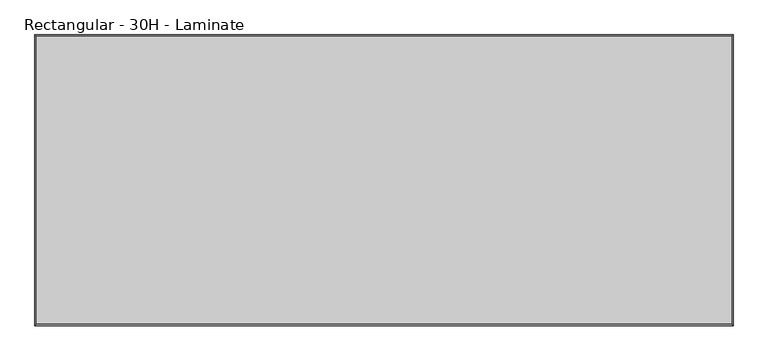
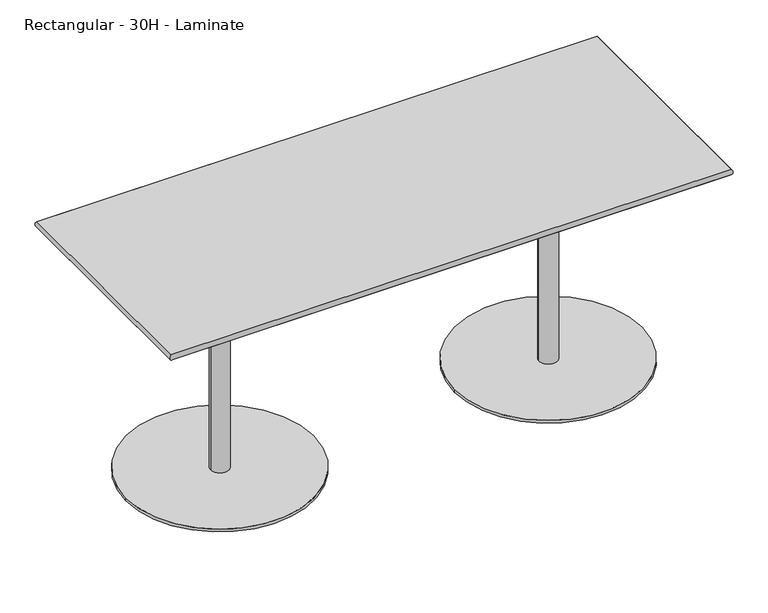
"""IFC4 building model written with IfcOpenShell, lengths in millimetres: furniture geometry, Steelcase Coalesse - Enea - Table - Double Base : Rectangular - 30H - Laminate."""

import ifcopenshell
import ifcopenshell.guid

model = None  # the IFC model being written
_history = None  # IfcOwnerHistory: only IFC2X3 demands one
_inside = {}  # id of a spatial element -> (the spatial element, [elements in it])
_under = {}  # id of a project, library or spatial element -> (it, [spatial elements below it])
_declared = {}  # id of a project -> (the project, [libraries it declares])
_typed = {}  # id of a type object -> (the type object, [elements of that type])
_made_of = {}  # id of a material, layer set ... -> (it, [elements and type objects made of it])


def new_model(schema):
    """Start an empty IFC model of exactly this schema.

    Asked for "IFC4X3", IfcOpenShell would pick the latest addendum, in which some entities
    have other attributes; the version numbers below select the first issue.
    IFC2X3 requires an IfcOwnerHistory on every rooted entity: one is made here for all.
    """
    global model, _history
    if schema == "IFC4X3":
        model = ifcopenshell.file(schema_version=(4, 3, 0, 0))
    else:
        model = ifcopenshell.file(schema=schema)
    _inside.clear()
    _under.clear()
    _declared.clear()
    _typed.clear()
    _made_of.clear()
    _history = None
    if model.schema == "IFC2X3":
        org = make("IfcOrganization", Name="unknown")
        user = make(
            "IfcPersonAndOrganization",
            ThePerson=make("IfcPerson", FamilyName="unknown"),
            TheOrganization=org,
        )
        app = make(
            "IfcApplication",
            ApplicationDeveloper=org,
            Version="unknown",
            ApplicationFullName="unknown",
            ApplicationIdentifier="unknown",
        )
        _history = make(
            "IfcOwnerHistory",
            OwningUser=user,
            OwningApplication=app,
            ChangeAction="ADDED",
            CreationDate=0,
        )
    return model


def make(cls, **values):
    """One entity of the class cls with the attributes given. An attribute that is None is left unset."""
    return model.create_entity(
        cls, **{name: value for name, value in values.items() if value is not None}
    )


def rooted(cls, **values):
    """An entity with a GlobalId (a new one), such as an element, a storey or a relation."""
    return make(cls, GlobalId=ifcopenshell.guid.new(), OwnerHistory=_history, **values)


def si_unit(unit_type, name, prefix=None):
    """IfcSIUnit, for example si_unit("LENGTHUNIT", "METRE", prefix="MILLI")."""
    return make("IfcSIUnit", UnitType=unit_type, Prefix=prefix, Name=name)


def assignment(units):
    """IfcUnitAssignment: the units of a project."""
    return None if units is None else make("IfcUnitAssignment", Units=units)


def point(xyz):
    """IfcCartesianPoint."""
    return None if xyz is None else make("IfcCartesianPoint", Coordinates=xyz)


def direction(xyz):
    """IfcDirection."""
    return None if xyz is None else make("IfcDirection", DirectionRatios=xyz)


def frame(location, z_axis=None, x_axis=None):
    """IfcAxis2Placement3D, a coordinate frame: its origin and axes. An axis left out is left unset."""
    return make(
        "IfcAxis2Placement3D",
        Location=point(location),
        Axis=direction(z_axis),
        RefDirection=direction(x_axis),
    )


def frame_2d(location, x_axis=None):
    """IfcAxis2Placement2D, a coordinate frame in the plane: its origin and x axis."""
    return make(
        "IfcAxis2Placement2D", Location=point(location), RefDirection=direction(x_axis)
    )


def origin():
    """The frame at (0, 0, 0) with its axes left unset."""
    return frame((0.0, 0.0, 0.0))


def origin_with_axes():
    """The frame at (0, 0, 0) with the z axis (0, 0, 1) and the x axis (1, 0, 0) written out."""
    return frame((0.0, 0.0, 0.0), z_axis=(0.0, 0.0, 1.0), x_axis=(1.0, 0.0, 0.0))


def place(relative_to, where):
    """IfcLocalPlacement: puts the frame where relative to a parent placement (None: the world)."""
    return make(
        "IfcLocalPlacement", PlacementRelTo=relative_to, RelativePlacement=where
    )


def context(
    kind, dimensions, precision=None, world=None, true_north=None, identifier=None
):
    """IfcGeometricRepresentationContext, for example the 3D "Model" context."""
    return make(
        "IfcGeometricRepresentationContext",
        ContextIdentifier=identifier,
        ContextType=kind,
        CoordinateSpaceDimension=dimensions,
        Precision=precision,
        WorldCoordinateSystem=world,
        TrueNorth=true_north,
    )


def project(units=None, contexts=None):
    """IfcProject with its units and contexts."""
    return rooted(
        "IfcProject",
        Name="project",
        RepresentationContexts=contexts,
        UnitsInContext=assignment(units),
    )


def spatial(cls, under=None, at=None, **own):
    """A site, building, storey or space (cls), placed at a placement, below another one or the project."""
    s = rooted(cls, ObjectPlacement=at, **own)
    if under is not None:
        _under.setdefault(under.id(), (under, []))[1].append(s)
    return s


def polyline(points):
    """IfcPolyline through the points."""
    return make("IfcPolyline", Points=[point(p) for p in points])


def circle_curve(where, radius):
    """IfcCircle in the frame where."""
    return make("IfcCircle", Position=where, Radius=radius)


def ellipse_curve(where, semi_axis1, semi_axis2):
    """IfcEllipse in the frame where."""
    return make(
        "IfcEllipse", Position=where, SemiAxis1=semi_axis1, SemiAxis2=semi_axis2
    )


def trimmed(basis, trim1, trim2, sense, master):
    """IfcTrimmedCurve: the piece of a basis curve between two trims."""
    return make(
        "IfcTrimmedCurve",
        BasisCurve=basis,
        Trim1=trim1,
        Trim2=trim2,
        SenseAgreement=sense,
        MasterRepresentation=master,
    )


def segment(curve, same_sense, transition):
    """IfcCompositeCurveSegment."""
    return make(
        "IfcCompositeCurveSegment",
        Transition=transition,
        SameSense=same_sense,
        ParentCurve=curve,
    )


def composite_curve(segments, self_intersect=None):
    """IfcCompositeCurve: segments joined end to end."""
    return make("IfcCompositeCurve", Segments=segments, SelfIntersect=self_intersect)


def outline(outer, holes=None, kind="AREA"):
    """IfcArbitraryClosedProfileDef: a profile drawn as a closed curve; with holes, ...WithVoids."""
    if holes is None:
        return make("IfcArbitraryClosedProfileDef", ProfileType=kind, OuterCurve=outer)
    return make(
        "IfcArbitraryProfileDefWithVoids",
        ProfileType=kind,
        OuterCurve=outer,
        InnerCurves=holes,
    )


def extrude(swept, where, along, depth):
    """IfcExtrudedAreaSolid: the profile swept, set in the frame where, extruded along a direction by depth."""
    return make(
        "IfcExtrudedAreaSolid",
        SweptArea=swept,
        Position=where,
        ExtrudedDirection=direction(along),
        Depth=depth,
    )


def shape(context_of_items, identifier, shape_type, items):
    """IfcShapeRepresentation: the items that make up one representation, for example the "Body"."""
    return make(
        "IfcShapeRepresentation",
        ContextOfItems=context_of_items,
        RepresentationIdentifier=identifier,
        RepresentationType=shape_type,
        Items=items,
    )


def source(mapping_origin, context_of_items, identifier, shape_type, items):
    """IfcRepresentationMap: a shape defined once, which mapped items show again and again."""
    return make(
        "IfcRepresentationMap",
        MappingOrigin=mapping_origin,
        MappedRepresentation=shape(context_of_items, identifier, shape_type, items),
    )


def transform(
    local_origin,
    x_axis=None,
    y_axis=None,
    z_axis=None,
    scale=None,
    scale2=None,
    scale3=None,
    uniform=True,
):
    """IfcCartesianTransformationOperator3D, or its non-uniform kind. x_axis, y_axis, z_axis: its Axis1, 2, 3."""
    if uniform:
        return make(
            "IfcCartesianTransformationOperator3D",
            Axis1=direction(x_axis),
            Axis2=direction(y_axis),
            LocalOrigin=point(local_origin),
            Scale=scale,
            Axis3=direction(z_axis),
        )
    return make(
        "IfcCartesianTransformationOperator3DnonUniform",
        Axis1=direction(x_axis),
        Axis2=direction(y_axis),
        LocalOrigin=point(local_origin),
        Scale=scale,
        Axis3=direction(z_axis),
        Scale2=scale2,
        Scale3=scale3,
    )


def mapped(mapping_source, mapping_target):
    """IfcMappedItem: shows the shape of a source again, moved by a transform."""
    return make(
        "IfcMappedItem", MappingSource=mapping_source, MappingTarget=mapping_target
    )


def made_of(thing, what):
    """Note that an element or type object is made of a material, layer set ...; save() writes the relation."""
    if what is not None:
        _made_of.setdefault(what.id(), (what, []))[1].append(thing)
    return thing


def element(
    cls,
    number,
    at=None,
    inside=None,
    cuts=None,
    type_object=None,
    material=None,
    context=None,
    identifier="Body",
    shape_type=None,
    held_by="IfcProductDefinitionShape",
    body=None,
    shapes=None,
    **own,
):
    """One element of the class cls, such as IfcWall. Its Tag is "e" and its number.

    at: its placement. inside: the storey or other place that contains it. cuts: it is an
    opening in that element (IfcRelVoidsElement). A single representation is given by context,
    identifier, shape_type and body (its items); several are given by shapes. held_by: the class
    of the entity that holds the representations. save() writes the other relations.
    """
    e = rooted(cls, Tag="e%d" % number, ObjectPlacement=at, **own)
    if body is not None:
        shapes = [shape(context, identifier, shape_type, body)]
    if shapes is not None:
        e.Representation = make(held_by, Representations=shapes)
    if inside is not None:
        _inside.setdefault(inside.id(), (inside, []))[1].append(e)
    if cuts is not None:
        rooted(
            "IfcRelVoidsElement", RelatingBuildingElement=cuts, RelatedOpeningElement=e
        )
    if type_object is not None:
        _typed.setdefault(type_object.id(), (type_object, []))[1].append(e)
    return made_of(e, material)


def aggregate(whole, parts):
    """IfcRelAggregates: a whole, such as a stair, and the parts it consists of."""
    return rooted("IfcRelAggregates", RelatingObject=whole, RelatedObjects=parts)


def save(model, path):
    """Write the relations noted so far, then the file.

    IfcRelAggregates (storeys below a building ...), IfcRelContainedInSpatialStructure (elements
    in a storey), IfcRelDefinesByType, IfcRelAssociatesMaterial and IfcRelDeclares: one each for
    every whole, place, type object, material and project.
    """
    for whole, parts in _under.values():
        aggregate(whole, parts)
    for where, things in _inside.values():
        rooted(
            "IfcRelContainedInSpatialStructure",
            RelatedElements=things,
            RelatingStructure=where,
        )
    for kind, things in _typed.values():
        rooted("IfcRelDefinesByType", RelatedObjects=things, RelatingType=kind)
    for what, things in _made_of.values():
        rooted("IfcRelAssociatesMaterial", RelatedObjects=things, RelatingMaterial=what)
    for by, libraries in _declared.values():
        rooted("IfcRelDeclares", RelatingContext=by, RelatedDefinitions=libraries)
    model.write(path)


def plane_surface(at):
    """IfcPlane: the flat surface through the origin of the frame at, square to its z axis."""
    return make("IfcPlane", Position=at)


def cylinder_surface(at, radius):
    """IfcCylindricalSurface: all points at the distance radius from the z axis of the frame at."""
    return make("IfcCylindricalSurface", Position=at, Radius=radius)


def advanced_brep(points, edges, surfaces, faces):
    """IfcAdvancedBrep: a solid bounded by faces that lie on surfaces and meet in shared edges.

    An edge is (start, end): straight between two places in points (the first is 0);
    or (start, end, curve); or (start, end, curve, False) where it runs against its curve.
    A face is (place in surfaces, loops), or (place, loops, False) where it looks against
    its surface's normal. A loop lists edges by number (the first is 1), with a minus sign
    where the edge is run from its end to its start. The first loop is the outer one.
    """
    corners = [point(p) for p in points]
    vertices = [make("IfcVertexPoint", VertexGeometry=c) for c in corners]
    made = []
    for start, end, *more in edges:
        made.append(
            make(
                "IfcEdgeCurve",
                EdgeStart=vertices[start],
                EdgeEnd=vertices[end],
                EdgeGeometry=more[0] if more else make("IfcPolyline", Points=[corners[start], corners[end]]),
                SameSense=more[1] if len(more) > 1 else True,
            )
        )
    hull = []
    for where, loops, *sense in faces:
        bounds = []
        for j, loop in enumerate(loops):
            ring = [make("IfcOrientedEdge", EdgeElement=made[abs(k) - 1], Orientation=k > 0) for k in loop]
            bounds.append(
                make(
                    "IfcFaceOuterBound" if j == 0 else "IfcFaceBound",
                    Bound=make("IfcEdgeLoop", EdgeList=ring),
                    Orientation=True,
                )
            )
        hull.append(make("IfcAdvancedFace", Bounds=bounds, FaceSurface=surfaces[where], SameSense=sense[0] if sense else True))
    return make("IfcAdvancedBrep", Outer=make("IfcClosedShell", CfsFaces=hull))


def rectangular_30h_laminate_148f9627(model_context):
    return source(origin(), model_context, "Body", "SolidModel", [
        advanced_brep(
        [(-1205.8132353, -914.4181244, 762.0), (-1205.8132353, -914.4181244, 742.95), (614.3872896, -914.4181244, 742.95), (614.3872896, -914.4181244, 762.0), (614.3872896, -161.0175995, 742.95), (614.3872896, -161.0175995, 762.0), (-1205.8132353, -161.0175995, 742.95), (-1205.8132353, -161.0175995, 762.0)],
        [
            (0, 1, ellipse_curve(frame((-1196.3937054, -904.9985945, 752.475), z_axis=(0.7071067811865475, -0.7071067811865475, 0.0), x_axis=(-0.7071067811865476, -0.7071067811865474, 0.0)), 18.9448235, 13.3960131)),
            (1, 2),
            (2, 3, ellipse_curve(frame((604.9677598, -904.9985945, 752.475), z_axis=(-0.7071067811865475, -0.7071067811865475, 0.0), x_axis=(-0.7071067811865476, 0.7071067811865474, 0.0)), 18.9448235, 13.3960131)),
            (3, 0),
            (1, 0),
            (3, 2),
            (2, 4),
            (4, 5, ellipse_curve(frame((604.9677598, -170.4371294, 752.475), z_axis=(0.7071067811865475, -0.7071067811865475, 0.0), x_axis=(-0.7071067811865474, -0.7071067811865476, 0.0)), 18.9448235, 13.3960131)),
            (5, 3),
            (5, 4),
            (4, 6),
            (6, 7, ellipse_curve(frame((-1196.3937054, -170.4371294, 752.475), z_axis=(0.7071067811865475, 0.7071067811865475, 0.0), x_axis=(0.7071067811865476, -0.7071067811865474, 0.0)), 18.9448235, 13.3960131)),
            (7, 5),
            (7, 6),
            (6, 1),
            (0, 7),
        ],
        [
            cylinder_surface(frame((-1205.8132353, -904.9985945, 752.475), z_axis=(-1.0, 0.0, 0.0), x_axis=(0.0, 1.0, 0.0)), 13.3960131),
            plane_surface(frame((-1205.8132353, -914.4181244, 762.0), z_axis=(0.0, 1.0, 0.0), x_axis=(1.0, 0.0, 0.0))),
            cylinder_surface(frame((604.9677598, -914.4181244, 752.475), z_axis=(0.0, -1.0, 0.0), x_axis=(-1.0, 0.0, 0.0)), 13.3960131),
            plane_surface(frame((614.3872896, -914.4181244, 762.0), z_axis=(-1.0, 0.0, 0.0), x_axis=(0.0, 1.0, 0.0))),
            cylinder_surface(frame((614.3872896, -170.4371294, 752.475), z_axis=(1.0, 0.0, 0.0), x_axis=(0.0, -1.0, 0.0)), 13.3960131),
            plane_surface(frame((614.3872896, -161.0175995, 762.0), z_axis=(0.0, -1.0, 0.0), x_axis=(-1.0, 0.0, 0.0))),
            cylinder_surface(frame((-1196.3937054, -161.0175995, 752.475), z_axis=(0.0, 1.0, 0.0), x_axis=(1.0, 0.0, 0.0)), 13.3960131),
            plane_surface(frame((-1205.8132353, -161.0175995, 762.0), z_axis=(1.0, 0.0, 0.0), x_axis=(0.0, -1.0, 0.0))),
        ],
        [
            (0, [[1, 2, 3, 4]]),
            (1, [[5, -4, 6, -2]]),
            (2, [[-3, 7, 8, 9]]),
            (3, [[-6, -9, 10, -7]]),
            (4, [[-8, 11, 12, 13]]),
            (5, [[-10, -13, 14, -11]]),
            (6, [[-12, 15, -1, 16]]),
            (7, [[-14, -16, -5, -15]]),
        ],
    ),
        extrude(outline(polyline([(614.3872896, -161.0175995), (614.3872896, -914.4181244), (-1205.8132353, -914.4181244), (-1205.8132353, -161.0175995), (614.3872896, -161.0175995)])), frame((0.0, 0.0, 742.95), z_axis=(0.0, 0.0, 1.0), x_axis=(1.0, 0.0, 0.0)), (0.0, 0.0, 1.0), 19.05),
        extrude(outline(composite_curve([segment(trimmed(circle_curve(frame_2d((-829.113029, -284.0746893)), 25.4), [point((-803.713029, -284.0746893))], [point((-854.513029, -284.0746893))], False, "CARTESIAN"), True, "CONTINUOUS"), segment(trimmed(circle_curve(frame_2d((-829.113029, -284.0746893)), 25.4), [point((-854.513029, -284.0746893))], [point((-803.713029, -284.0746893))], False, "CARTESIAN"), True, "CONTINUOUS")], self_intersect=False)), origin_with_axes(), (0.0, 0.0, 1.0), 6.35),
        extrude(outline(composite_curve([segment(trimmed(circle_curve(frame_2d((-1082.7563397, -537.3772238)), 25.4), [point((-1057.3563397, -537.3772238))], [point((-1108.1563397, -537.3772238))], False, "CARTESIAN"), True, "CONTINUOUS"), segment(trimmed(circle_curve(frame_2d((-1082.7563397, -537.3772238)), 25.4), [point((-1108.1563397, -537.3772238))], [point((-1057.3563397, -537.3772238))], False, "CARTESIAN"), True, "CONTINUOUS")], self_intersect=False)), origin_with_axes(), (0.0, 0.0, 1.0), 6.35),
        extrude(outline(composite_curve([segment(trimmed(circle_curve(frame_2d((-575.4697182, -537.3772238)), 25.4), [point((-550.0697182, -537.3772238))], [point((-600.8697182, -537.3772238))], False, "CARTESIAN"), True, "CONTINUOUS"), segment(trimmed(circle_curve(frame_2d((-575.4697182, -537.3772238)), 25.4), [point((-600.8697182, -537.3772238))], [point((-550.0697182, -537.3772238))], False, "CARTESIAN"), True, "CONTINUOUS")], self_intersect=False)), origin_with_axes(), (0.0, 0.0, 1.0), 6.35),
        extrude(outline(composite_curve([segment(trimmed(circle_curve(frame_2d((-829.113029, -790.6797584)), 25.4), [point((-803.713029, -790.6797584))], [point((-854.513029, -790.6797584))], False, "CARTESIAN"), True, "CONTINUOUS"), segment(trimmed(circle_curve(frame_2d((-829.113029, -790.6797584)), 25.4), [point((-854.513029, -790.6797584))], [point((-803.713029, -790.6797584))], False, "CARTESIAN"), True, "CONTINUOUS")], self_intersect=False)), origin_with_axes(), (0.0, 0.0, 1.0), 6.35),
        extrude(outline(composite_curve([segment(trimmed(circle_curve(frame_2d((-829.113029, -537.718)), 304.8), [point((-1133.913029, -537.718))], [point((-524.313029, -537.718))], False, "CARTESIAN"), True, "CONTINUOUS"), segment(trimmed(circle_curve(frame_2d((-829.113029, -537.718)), 304.8), [point((-524.313029, -537.718))], [point((-1133.913029, -537.718))], False, "CARTESIAN"), True, "CONTINUOUS")], self_intersect=False)), frame((0.0, 0.0, 6.35), z_axis=(0.0, 0.0, 1.0), x_axis=(1.0, 0.0, 0.0)), (0.0, 0.0, 1.0), 9.525),
        extrude(outline(composite_curve([segment(trimmed(circle_curve(frame_2d((-829.1133197, -537.7179273)), 30.0214725), [point((-859.1347922, -537.7179273))], [point((-799.0918471, -537.7179273))], False, "CARTESIAN"), True, "CONTINUOUS"), segment(trimmed(circle_curve(frame_2d((-829.1133197, -537.7179273)), 30.0214725), [point((-799.0918471, -537.7179273))], [point((-859.1347922, -537.7179273))], False, "CARTESIAN"), True, "CONTINUOUS")], self_intersect=False)), frame((0.0, 0.0, 15.875), z_axis=(0.0, 0.0, 1.0), x_axis=(1.0, 0.0, 0.0)), (0.0, 0.0, 1.0), 727.075),
        extrude(outline(composite_curve([segment(trimmed(circle_curve(frame_2d((237.686971, -284.0746893)), 25.4), [point((212.286971, -284.0746893))], [point((263.086971, -284.0746893))], False, "CARTESIAN"), True, "CONTINUOUS"), segment(trimmed(circle_curve(frame_2d((237.686971, -284.0746893)), 25.4), [point((263.086971, -284.0746893))], [point((212.286971, -284.0746893))], False, "CARTESIAN"), True, "CONTINUOUS")], self_intersect=False)), origin_with_axes(), (0.0, 0.0, 1.0), 6.35),
        extrude(outline(composite_curve([segment(trimmed(circle_curve(frame_2d((491.3302818, -537.3772238)), 25.4), [point((465.9302818, -537.3772238))], [point((516.7302818, -537.3772238))], False, "CARTESIAN"), True, "CONTINUOUS"), segment(trimmed(circle_curve(frame_2d((491.3302818, -537.3772238)), 25.4), [point((516.7302818, -537.3772238))], [point((465.9302818, -537.3772238))], False, "CARTESIAN"), True, "CONTINUOUS")], self_intersect=False)), origin_with_axes(), (0.0, 0.0, 1.0), 6.35),
        extrude(outline(composite_curve([segment(trimmed(circle_curve(frame_2d((-15.9563397, -537.3772238)), 25.4), [point((-41.3563397, -537.3772238))], [point((9.4436603, -537.3772238))], False, "CARTESIAN"), True, "CONTINUOUS"), segment(trimmed(circle_curve(frame_2d((-15.9563397, -537.3772238)), 25.4), [point((9.4436603, -537.3772238))], [point((-41.3563397, -537.3772238))], False, "CARTESIAN"), True, "CONTINUOUS")], self_intersect=False)), origin_with_axes(), (0.0, 0.0, 1.0), 6.35),
        extrude(outline(composite_curve([segment(trimmed(circle_curve(frame_2d((237.686971, -790.6797584)), 25.4), [point((212.286971, -790.6797584))], [point((263.086971, -790.6797584))], False, "CARTESIAN"), True, "CONTINUOUS"), segment(trimmed(circle_curve(frame_2d((237.686971, -790.6797584)), 25.4), [point((263.086971, -790.6797584))], [point((212.286971, -790.6797584))], False, "CARTESIAN"), True, "CONTINUOUS")], self_intersect=False)), origin_with_axes(), (0.0, 0.0, 1.0), 6.35),
        extrude(outline(composite_curve([segment(trimmed(circle_curve(frame_2d((237.686971, -537.718)), 304.8), [point((542.486971, -537.718))], [point((-67.113029, -537.718))], False, "CARTESIAN"), True, "CONTINUOUS"), segment(trimmed(circle_curve(frame_2d((237.686971, -537.718)), 304.8), [point((-67.113029, -537.718))], [point((542.486971, -537.718))], False, "CARTESIAN"), True, "CONTINUOUS")], self_intersect=False)), frame((0.0, 0.0, 6.35), z_axis=(0.0, 0.0, 1.0), x_axis=(1.0, 0.0, 0.0)), (0.0, 0.0, 1.0), 9.525),
        extrude(outline(composite_curve([segment(trimmed(circle_curve(frame_2d((237.6872617, -537.7179273)), 30.0214725), [point((267.7087342, -537.7179273))], [point((207.6657892, -537.7179273))], False, "CARTESIAN"), True, "CONTINUOUS"), segment(trimmed(circle_curve(frame_2d((237.6872617, -537.7179273)), 30.0214725), [point((207.6657892, -537.7179273))], [point((267.7087342, -537.7179273))], False, "CARTESIAN"), True, "CONTINUOUS")], self_intersect=False)), frame((0.0, 0.0, 15.875), z_axis=(0.0, 0.0, 1.0), x_axis=(1.0, 0.0, 0.0)), (0.0, 0.0, 1.0), 727.075),
    ])


if __name__ == "__main__":
    model = new_model("IFC4")
    model_context = context("Model", 3, world=origin())
    ifc_project = project(units=[si_unit("LENGTHUNIT", "METRE", prefix="MILLI")], contexts=[model_context])
    site = spatial("IfcSite", under=ifc_project)
    building = spatial("IfcBuilding", under=site)
    placement = place(None, origin())
    rectangular_30h_laminate_shape = rectangular_30h_laminate_148f9627(model_context)
    element("IfcFurniture", 1, ObjectType="Steelcase Coalesse - Enea - Table - Double Base : Rectangular - 30H - Laminate", at=placement, inside=building, context=model_context, shape_type="MappedRepresentation", body=[
        mapped(rectangular_30h_laminate_shape, transform((0.0, 0.0, 0.0), x_axis=(1.0, 0.0, 0.0), y_axis=(0.0, 1.0, 0.0), z_axis=(0.0, 0.0, 1.0))),
    ])
    save(model, "model.ifc")
